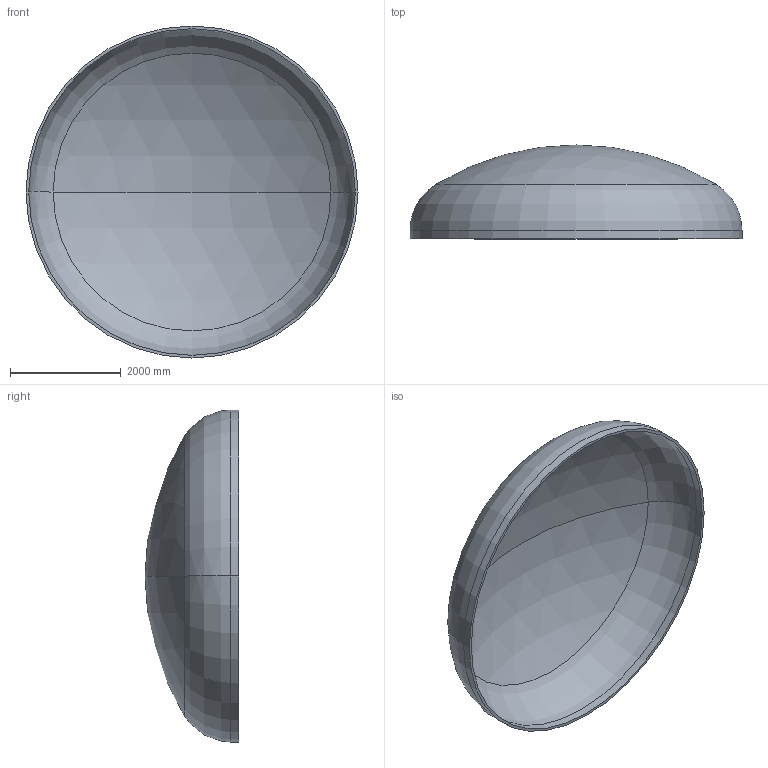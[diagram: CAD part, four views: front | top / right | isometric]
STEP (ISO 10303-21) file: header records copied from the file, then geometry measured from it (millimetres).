
FILE_DESCRIPTION (( 'STEP AP203' ), '1' );
FILE_NAME ('DIN 28013 Korbbogenform_-_Boden DIN 28013 - 6000 x 150 - I - s=49.step', '2016-07-04T10:37:22', ( '' ), ( '' ), 'SwSTEP 2.0', 'SolidWorks 2013', '' );
FILE_SCHEMA (( 'CONFIG_CONTROL_DESIGN' ));
Length unit declared in the file: millimetre
Products named in the file (1): DIN 28013 Korbbogenform_-_Boden DIN 28013 - 6000 x 150 - I - s=49
Bounding box: 6000 x 1695.83 x 6000 mm (x, y, z)
Volume: 2036032070.2 mm3; surface area: 84024432.3 mm2
Topology: 1 solids, 1 shells, 13 faces, 24 edges, 14 vertices
Faces by surface type: torus 4, cylinder 4, sphere 4, plane 1
Entity records: 407 total; most frequent: DIRECTION 72, CARTESIAN_POINT 52, ORIENTED_EDGE 48, AXIS2_PLACEMENT_3D 34, EDGE_CURVE 24, CIRCLE 20, VERTEX_POINT 14, EDGE_LOOP 14
